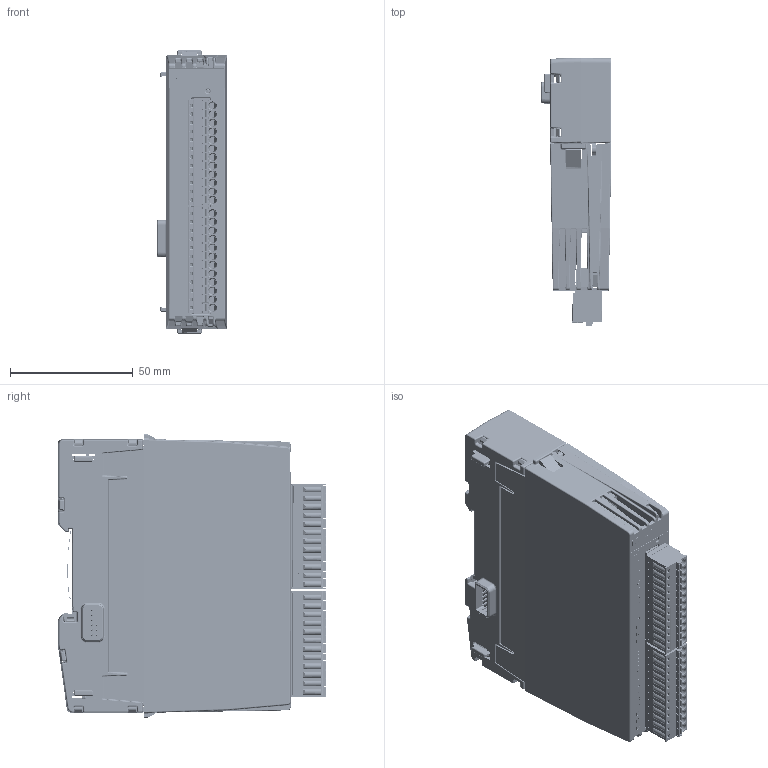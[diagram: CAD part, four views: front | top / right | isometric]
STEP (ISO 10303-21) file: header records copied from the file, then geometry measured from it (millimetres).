
FILE_DESCRIPTION(/* description */ (''),/* implementation_level */ '2;1');
FILE_NAME(/* name */ 'C:\Users\Public\Documents\Autodesk\Inventor 2023\IO14B_Simplified+BackBB21C.stp',/* time_stamp */ '2024-10-16T20:28:20+02:00',/* author */ ('shoma'),/* organization */ (''),/* preprocessor_version */ 'ST-DEVELOPER v19',/* originating_system */ 'Autodesk Inventor 2023',/* authorisation */ '');
FILE_SCHEMA (('AUTOMOTIVE_DESIGN { 1 0 10303 214 3 1 1 }'));
Products named in the file (1): IO14B_Simplified+BackBB21C
Bounding box: 28.9 x 109.39 x 115.5 mm (x, y, z)
Volume: 155200.9 mm3; surface area: 94769.4 mm2
Topology: 8 solids, 58 shells, 9469 faces, 25094 edges, 15802 vertices
Faces by surface type: plane 5746, cylinder 2404, bspline 883, cone 233, sphere 162, torus 41
Full cylindrical faces by diameter (mm): 0.296 x2, 0.3 x152, 0.457 x2, 0.7 x36, 0.8 x6, 0.85 x24, 0.9 x8, 1.17 x24, 1.2 x24, 1.25 x24, 1.3 x24, 1.4 x4, 1.6 x26, 2.35 x2, 2.5 x1, 3 x1, 3.1 x24, 3.25 x2
Entity records: 327062 total; most frequent: CARTESIAN_POINT 84024, ORIENTED_EDGE 49882, DIRECTION 46199, EDGE_CURVE 24941, LINE 17685, VECTOR 17685, VERTEX_POINT 15802, AXIS2_PLACEMENT_3D 14257
